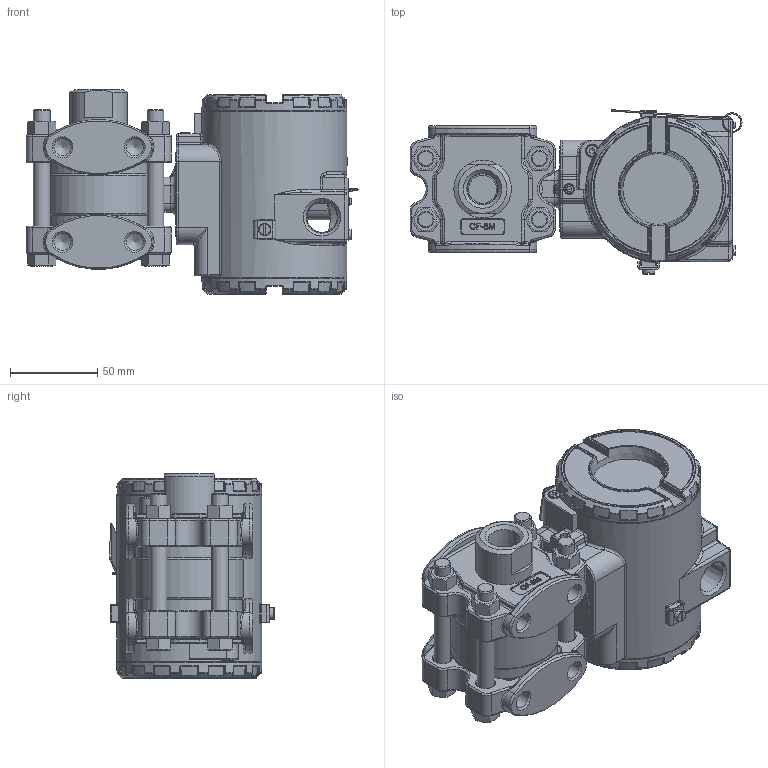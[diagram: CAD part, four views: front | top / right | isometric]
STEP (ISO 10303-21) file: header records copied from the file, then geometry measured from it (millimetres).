
FILE_DESCRIPTION(/* description */ (''),/* implementation_level */ '2;1');
FILE_NAME(/* name */ 'F:\Area\Desenvolvimento_2\Projects\Sensor\projetos\LD30X\montagens 3d - clientes\LD30XA0-3 1-2NPT Kynar.stp',/* time_stamp */ '2023-01-26T11:05:42-03:00',/* author */ ('inventor02'),/* organization */ (''),/* preprocessor_version */ 'ST-DEVELOPER v17',/* originating_system */ 'Autodesk Inventor 2019',/* authorisation */ '');
FILE_SCHEMA (('CONFIG_CONTROL_DESIGN'));
Length unit declared in the file: millimetre
Products named in the file (31): LD30XA3 1-2NPT Kynar; manometrico fx0-3 kynar; involucro fx0-3 apos a usinagem final; 101-b-2616 - kynar 1-2NPT; 096-C-0116-03; 096-B-0117-06; ISO 8752 - 3 x 14  A; 096-C-0014-13 manom reforçado; Paraf. 3-8 x 16 UNC; Porca 3-8 x 16 UNC; carcaça vazia com tampas e plaqueta; carcaça LD inox sem letras; Subconjunto plaqueta 300; Plaqueta transmissor; Parafuso da Plaqueta; Rebite da Plaqueta; 096-A-0169-03; 101-A-0502-01; Chapa aterramento externo; ISO 1207 - M4 x 8; DIN 915 - M6 x 10; ANSI B18.3.1M - M4x0,7 x 8; Subconjunto tampa com visor aluminio; tampa pintada; VIDRO DO VISOR; oring 41x1 vidro tampa; Trava do vidro da tampa com visor; trava do vidro VH256; Subconjunto tampa sem visor-aluminio; tampa cega 300 pintada p0; 00034775-0
Assembly tree (38 placements, depth 4):
  LD30XA3 1-2NPT Kynar
    manometrico fx0-3 kynar
      involucro fx0-3 apos a usinagem final
      101-b-2616 - kynar 1-2NPT
        096-C-0116-03
        096-B-0117-06
        ISO 8752 - 3 x 14  A
      096-C-0014-13 manom reforçado
      Paraf. 3-8 x 16 UNC  x4
      Porca 3-8 x 16 UNC  x4
    carcaça vazia com tampas e plaqueta
      carcaça LD inox sem letras
      Subconjunto plaqueta 300
        Plaqueta transmissor
        Parafuso da Plaqueta
        Rebite da Plaqueta
        096-A-0169-03
        101-A-0502-01
      Chapa aterramento externo
      ISO 1207 - M4 x 8
      DIN 915 - M6 x 10
      ANSI B18.3.1M - M4x0,7 x 8  x2
      Subconjunto tampa com visor aluminio
        tampa pintada
        VIDRO DO VISOR
        oring 41x1 vidro tampa
        Trava do vidro da tampa com visor
        trava do vidro VH256
        00034775-0
      Subconjunto tampa sem visor-aluminio
        tampa cega 300 pintada p0
        00034775-0
Bounding box: 189.8 x 93.95 x 116.88 mm (x, y, z)
Volume: 609781 mm3; surface area: 234170.3 mm2
Topology: 32 solids, 32 shells, 2462 faces, 5972 edges, 3547 vertices
Faces by surface type: bspline 611, cylinder 602, plane 513, torus 437, cone 188, sphere 111
Full cylindrical faces by diameter (mm): 2 x2, 2.1 x2, 2.459 x5, 2.642 x1, 2.7 x1, 3 x3, 3.242 x4, 3.5 x4, 3.571 x1, 4 x4, 4.3 x1, 4.4 x1, 4.917 x1, 6 x2, 7 x4, 7.087 x2, 7.6 x2, 7.798 x4, 8.7 x2, 9.525 x4, 9.728 x6, 10.5 x8, 14 x1, 17.475 x3, 32.9 x2, 34.6 x1, 36 x1, 40.5 x1, 42 x1, 42.6 x1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
Entity records: 87746 total; most frequent: CARTESIAN_POINT 33584, ORIENTED_EDGE 11358, DIRECTION 10886, EDGE_CURVE 5679, AXIS2_PLACEMENT_3D 4724, VERTEX_POINT 3413, CIRCLE 2762, EDGE_LOOP 2482
